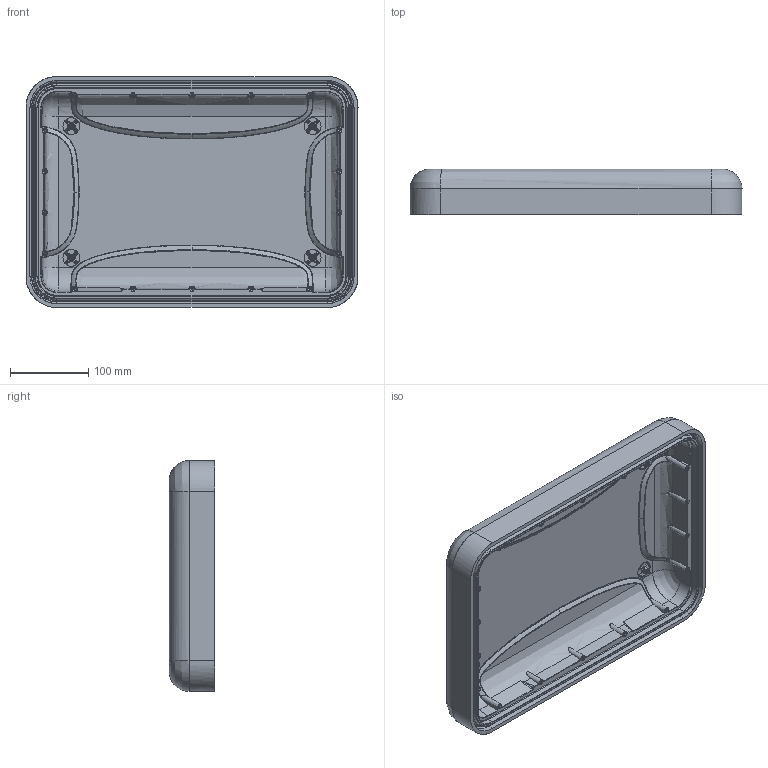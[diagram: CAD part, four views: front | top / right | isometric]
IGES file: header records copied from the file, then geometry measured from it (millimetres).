
Start section: SolidWorks IGES file using analytic representation for surfaces
Global section: file name: C:\Working Folder\918 933 acc panel\918\inside surface\918_top_INNER SURFACES.IGS; native system: SolidWorks 2015; preprocessor: SolidWorks 2015; author: MKeighan; date: 160504.132026; units: inch
Bounding box: 424.11 x 58.14 x 295.07 mm (x, y, z)
Surface area: 387976.4 mm2 (no closed solid volume)
Topology: 0 solids, 0 shells, 1217 faces, 13333 edges, 13324 vertices
Faces by surface type: bspline 864, revolution 353
